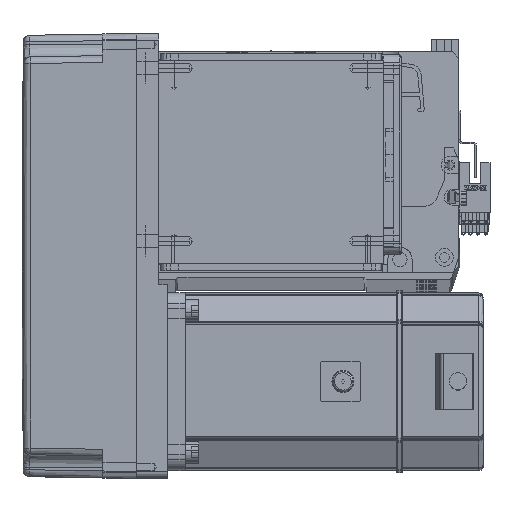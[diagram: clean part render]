
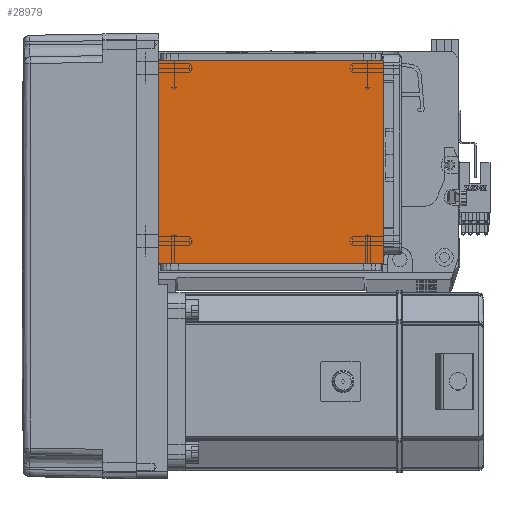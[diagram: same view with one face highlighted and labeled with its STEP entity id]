
A CAD part, top view. The second image highlights one B-rep face of the part: STEP entity #28979.
In plain terms, the highlighted planar face has unit normal (0, 0, 1).
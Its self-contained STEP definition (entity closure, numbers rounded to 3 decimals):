
#5831 = VECTOR ( 'NONE', #65296, 1000. ) ;
#7007 = EDGE_CURVE ( 'NONE', #27962, #47109, #43458, .T. ) ;
#7306 = CARTESIAN_POINT ( 'NONE',  ( 50.5, 20., 115. ) ) ;
#9723 = FACE_OUTER_BOUND ( 'NONE', #62245, .T. ) ;
#10260 = EDGE_CURVE ( 'NONE', #63500, #17218, #39530, .T. ) ;
#12226 = CARTESIAN_POINT ( 'NONE',  ( -50.5, 111.5, 115. ) ) ;
#14686 = VECTOR ( 'NONE', #31243, 1000. ) ;
#15022 = LINE ( 'NONE', #49752, #38288 ) ;
#17218 = VERTEX_POINT ( 'NONE', #25936 ) ;
#25936 = CARTESIAN_POINT ( 'NONE',  ( 50.5, 111.5, 115. ) ) ;
#26783 = CARTESIAN_POINT ( 'NONE',  ( 50.5, 122., 115. ) ) ;
#27962 = VERTEX_POINT ( 'NONE', #12226 ) ;
#28979 = ADVANCED_FACE ( 'NONE', ( #9723 ), #55738, .T. ) ;
#29223 = DIRECTION ( 'NONE',  ( 0., -1., 0. ) ) ;
#30087 = DIRECTION ( 'NONE',  ( 0., 0., 1. ) ) ;
#31243 = DIRECTION ( 'NONE',  ( 0., 1., 0. ) ) ;
#32152 = ORIENTED_EDGE ( 'NONE', *, *, #7007, .T. ) ;
#33153 = LINE ( 'NONE', #49350, #5831 ) ;
#34284 = AXIS2_PLACEMENT_3D ( 'NONE', #34799, #30087, #35249 ) ;
#34799 = CARTESIAN_POINT ( 'NONE',  ( 0., 0., 115. ) ) ;
#35249 = DIRECTION ( 'NONE',  ( 1., 0., 0. ) ) ;
#37921 = EDGE_CURVE ( 'NONE', #63500, #47109, #33153, .T. ) ;
#38288 = VECTOR ( 'NONE', #60148, 1000. ) ;
#39530 = LINE ( 'NONE', #26783, #14686 ) ;
#43458 = LINE ( 'NONE', #44253, #63601 ) ;
#43796 = ORIENTED_EDGE ( 'NONE', *, *, #37921, .F. ) ;
#44253 = CARTESIAN_POINT ( 'NONE',  ( -50.5, 122., 115. ) ) ;
#44795 = CARTESIAN_POINT ( 'NONE',  ( -50.5, 20., 115. ) ) ;
#45576 = ORIENTED_EDGE ( 'NONE', *, *, #57473, .F. ) ;
#46714 = ORIENTED_EDGE ( 'NONE', *, *, #10260, .T. ) ;
#47109 = VERTEX_POINT ( 'NONE', #44795 ) ;
#49350 = CARTESIAN_POINT ( 'NONE',  ( -70.004, 20., 115. ) ) ;
#49752 = CARTESIAN_POINT ( 'NONE',  ( -70.004, 111.5, 115. ) ) ;
#55738 = PLANE ( 'NONE',  #34284 ) ;
#57473 = EDGE_CURVE ( 'NONE', #27962, #17218, #15022, .T. ) ;
#60148 = DIRECTION ( 'NONE',  ( 1., 0., 0. ) ) ;
#62245 = EDGE_LOOP ( 'NONE', ( #45576, #32152, #43796, #46714 ) ) ;
#63500 = VERTEX_POINT ( 'NONE', #7306 ) ;
#63601 = VECTOR ( 'NONE', #29223, 1000. ) ;
#65296 = DIRECTION ( 'NONE',  ( -1., 0., 0. ) ) ;
